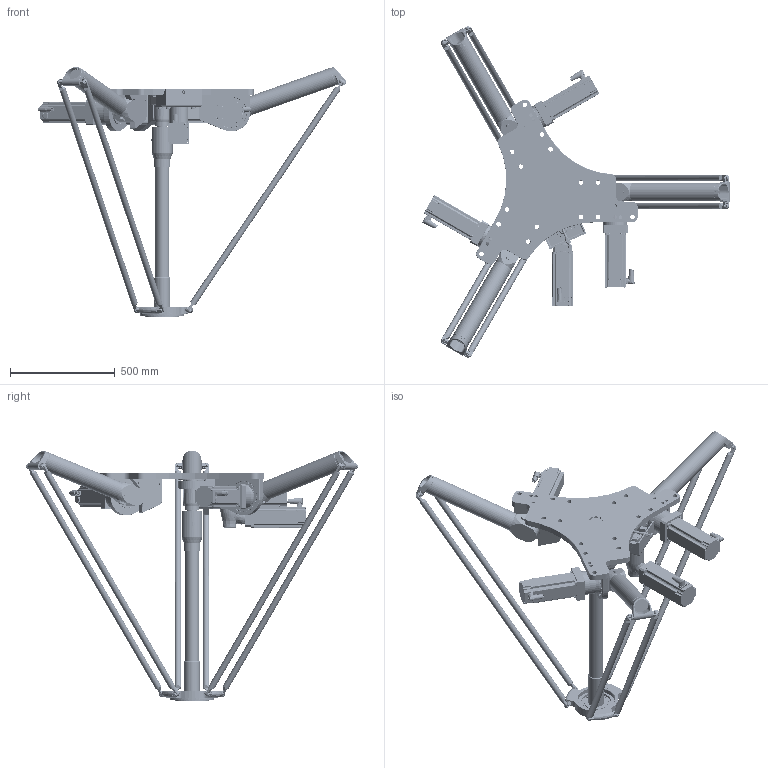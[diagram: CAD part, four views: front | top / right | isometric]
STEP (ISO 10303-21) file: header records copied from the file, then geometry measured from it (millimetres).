
FILE_DESCRIPTION (( 'STEP AP214' ), '1' );
FILE_NAME ('DR4160C-AX012_3D.STEP', '2020-04-06T13:36:58', ( '' ), ( '' ), 'SwSTEP 2.0', 'SolidWorks 2017', '' );
FILE_SCHEMA (( 'AUTOMOTIVE_DESIGN' ));
Length unit declared in the file: millimetre
Products named in the file (3): DR4160C-AX012_3D_ohne_Motor; DR4160C-AX012_3D; 8LSA46_DB030S200_3_9
Assembly tree (5 placements, depth 2):
  DR4160C-AX012_3D
    DR4160C-AX012_3D_ohne_Motor
    8LSA46_DB030S200_3_9  x4
Bounding box: 1471.42 x 1587.12 x 1196.69 mm (x, y, z)
Volume: 50503250.9 mm3; surface area: 4464830.8 mm2
Topology: 28 solids, 82 shells, 5751 faces, 13671 edges, 8763 vertices
Faces by surface type: plane 3147, cylinder 1572, cone 603, bspline 424, torus 5
Full cylindrical faces by diameter (mm): 1 x16, 3 x3, 4 x1, 4.134 x12, 4.2 x4, 4.917 x12, 5 x96, 5.3 x4, 7 x16, 8 x72, 8.2 x36, 8.376 x6, 8.5 x144, 9 x16, 9.6 x3, 10 x11, 12 x25, 13 x36, 13.835 x9, 15 x12, 16 x13, 17.294 x6, 18 x48, 19 x4, 19.8 x4, 20 x4, 21.5 x4, 22 x15, 23.1 x4, 24 x7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
Entity records: 147666 total; most frequent: CARTESIAN_POINT 38940, DIRECTION 15212, ORIENTED_EDGE 13572, EDGE_CURVE 6786, AXIS2_PLACEMENT_3D 5818, EDGE_LOOP 5293, VERTEX_POINT 4835, FACE_OUTER_BOUND 4443
